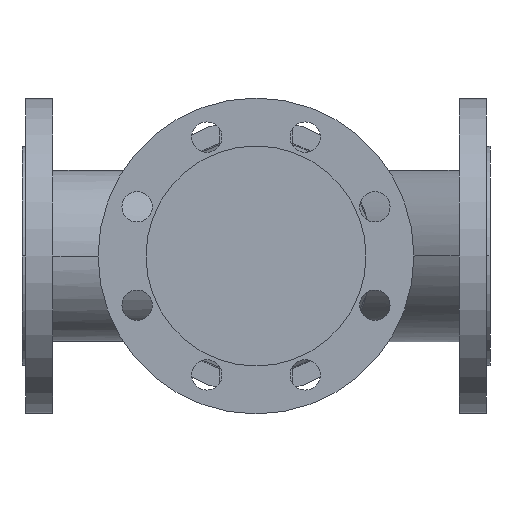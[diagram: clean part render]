
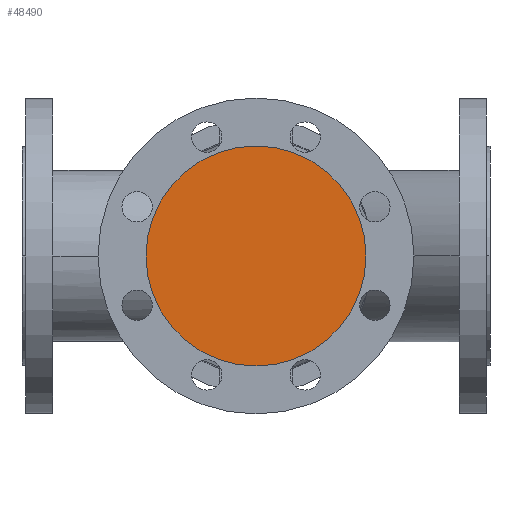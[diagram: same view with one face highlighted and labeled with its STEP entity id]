
A CAD part, front view. The second image highlights one B-rep face of the part: STEP entity #48490.
In plain terms, the highlighted planar face has unit normal (0, -1, 0).
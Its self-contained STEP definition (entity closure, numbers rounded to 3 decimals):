
#6530=CARTESIAN_POINT('',(106.,-200.,0.));
#6540=VERTEX_POINT('',#6530);
#6700=CARTESIAN_POINT('',(294.,-200.,0.));
#6710=VERTEX_POINT('',#6700);
#6740=CARTESIAN_POINT('',(200.,-200.,0.));
#6750=DIRECTION('',(0.,1.,0.));
#6760=DIRECTION('',(1.,0.,0.));
#6770=AXIS2_PLACEMENT_3D('',#6740,#6750,#6760);
#6780=CIRCLE('',#6770,94.);
#6790=EDGE_CURVE('',#6540,#6710,#6780,.T.);
#48390=CARTESIAN_POINT('',(247.,-200.,0.));
#48400=DIRECTION('',(0.,-1.,0.));
#48410=DIRECTION('',(-1.,0.,0.));
#48420=AXIS2_PLACEMENT_3D('',#48390,#48400,#48410);
#48430=PLANE('',#48420);
#48440=EDGE_CURVE('',#6710,#6540,#6780,.T.);
#48450=ORIENTED_EDGE('',*,*,#48440,.F.);
#48460=ORIENTED_EDGE('',*,*,#6790,.F.);
#48470=EDGE_LOOP('',(#48460,#48450));
#48480=FACE_OUTER_BOUND('',#48470,.T.);
#48490=ADVANCED_FACE('',(#48480),#48430,.T.);
